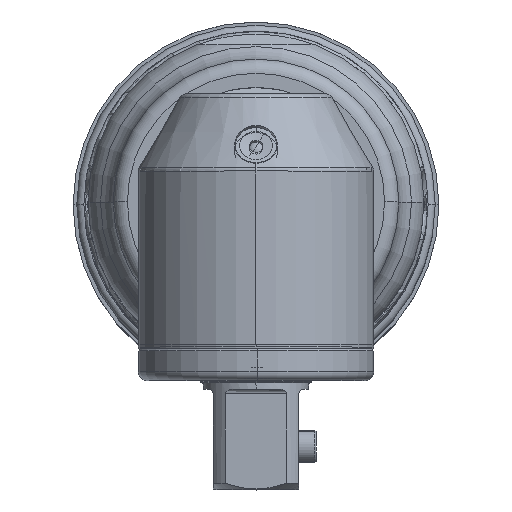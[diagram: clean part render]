
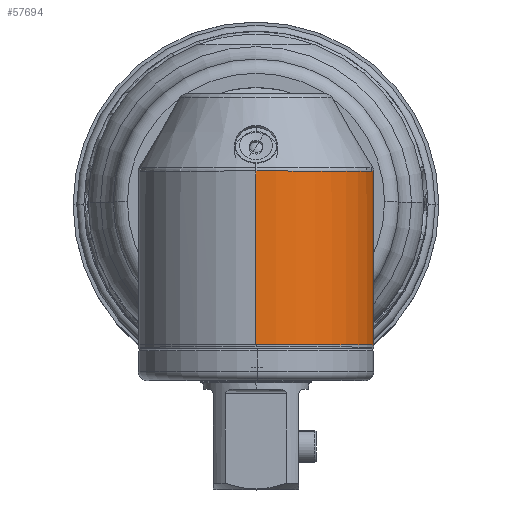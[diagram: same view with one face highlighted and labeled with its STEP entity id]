
A CAD part, top view. The second image highlights one B-rep face of the part: STEP entity #57694.
In plain terms, the highlighted cylindrical face has radius 13.081 mm (diameter 26.162 mm), a partial arc.
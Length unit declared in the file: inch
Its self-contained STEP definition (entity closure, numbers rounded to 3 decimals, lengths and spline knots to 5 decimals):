
#177 = CARTESIAN_POINT ( 'NONE',  ( 0., -0.6275, 5.83333 ) ) ;
#304 = CARTESIAN_POINT ( 'NONE',  ( 0., 0.13196, 6.34833 ) ) ;
#2229 = CARTESIAN_POINT ( 'NONE',  ( 0.15085, -0.5059, 5.34044 ) ) ;
#3226 = CARTESIAN_POINT ( 'NONE',  ( 0., 0.13196, 5.83333 ) ) ;
#3802 = CARTESIAN_POINT ( 'NONE',  ( 0.48121, -0.14799, 5.64932 ) ) ;
#3839 = EDGE_LOOP ( 'NONE', ( #35046, #51843, #43747, #19916, #20536 ) ) ;
#4142 = CARTESIAN_POINT ( 'NONE',  ( 0.47053, -0.18245, 5.6235 ) ) ;
#4307 = LINE ( 'NONE', #43387, #16334 ) ;
#4454 = CARTESIAN_POINT ( 'NONE',  ( 0.49145, -0.10251, 5.67925 ) ) ;
#4716 = AXIS2_PLACEMENT_3D ( 'NONE', #5178, #24511, #40400 ) ;
#5178 = CARTESIAN_POINT ( 'NONE',  ( 0., -0.6275, 5.83333 ) ) ;
#5346 = CARTESIAN_POINT ( 'NONE',  ( 0., -0.6275, 6.34833 ) ) ;
#6526 = DIRECTION ( 'NONE',  ( 0., 0., 1. ) ) ;
#7058 = CARTESIAN_POINT ( 'NONE',  ( 0.0444, -0.52842, 5.31978 ) ) ;
#8085 = EDGE_CURVE ( 'NONE', #52984, #50842, #21929, .T. ) ;
#8907 = CARTESIAN_POINT ( 'NONE',  ( 0.49702, 0.06594, 5.69835 ) ) ;
#9232 = CARTESIAN_POINT ( 'NONE',  ( 0.49606, -0.07359, 5.69485 ) ) ;
#10541 = DIRECTION ( 'NONE',  ( 0., 0., 1. ) ) ;
#12958 = EDGE_CURVE ( 'NONE', #52984, #52741, #4307, .T. ) ;
#13994 = CARTESIAN_POINT ( 'NONE',  ( 0.50044, 0.02359, 5.71172 ) ) ;
#16334 = VECTOR ( 'NONE', #19558, 39.37008 ) ;
#17533 = DIRECTION ( 'NONE',  ( 0., 1., 0. ) ) ;
#18451 = CARTESIAN_POINT ( 'NONE',  ( 0.49299, 0.09546, 5.68406 ) ) ;
#18762 = CARTESIAN_POINT ( 'NONE',  ( 0.48505, 0.13196, 5.66027 ) ) ;
#19075 = CARTESIAN_POINT ( 'NONE',  ( 0.32331, -0.40523, 5.43206 ) ) ;
#19243 = CARTESIAN_POINT ( 'NONE',  ( 0., -0.53, 5.31833 ) ) ;
#19558 = DIRECTION ( 'NONE',  ( 0., 1., 0. ) ) ;
#19916 = ORIENTED_EDGE ( 'NONE', *, *, #45025, .T. ) ;
#20536 = ORIENTED_EDGE ( 'NONE', *, *, #12958, .F. ) ;
#20841 = CARTESIAN_POINT ( 'NONE',  ( 0., -0.6275, 5.31833 ) ) ;
#21929 = CIRCLE ( 'NONE', #4716, 0.515 ) ;
#22868 = CARTESIAN_POINT ( 'NONE',  ( 0.46445, -0.19909, 5.61032 ) ) ;
#23189 = CARTESIAN_POINT ( 'NONE',  ( 0.35025, -0.37933, 5.45534 ) ) ;
#23802 = CARTESIAN_POINT ( 'NONE',  ( 0.48943, 0.11396, 5.67253 ) ) ;
#24303 = CYLINDRICAL_SURFACE ( 'NONE', #31014, 0.515 ) ;
#24511 = DIRECTION ( 'NONE',  ( 0., 1., 0. ) ) ;
#24608 = FACE_OUTER_BOUND ( 'NONE', #3839, .T. ) ;
#26389 = CARTESIAN_POINT ( 'NONE',  ( 0.08773, -0.52232, 5.32538 ) ) ;
#28287 = CARTESIAN_POINT ( 'NONE',  ( 0.27817, -0.44119, 5.39951 ) ) ;
#28597 = CARTESIAN_POINT ( 'NONE',  ( 0.50085, -0.00984, 5.71341 ) ) ;
#29443 = EDGE_CURVE ( 'NONE', #50842, #33838, #35979, .T. ) ;
#30864 = CARTESIAN_POINT ( 'NONE',  ( 0., -0.53, 5.31833 ) ) ;
#31014 = AXIS2_PLACEMENT_3D ( 'NONE', #177, #38910, #6526 ) ;
#32483 = CIRCLE ( 'NONE', #57856, 0.515 ) ;
#32687 = B_SPLINE_CURVE_WITH_KNOTS ( 'NONE', 3,
 ( #30864, #55307, #7058, #26389, #45811, #2229, #41008, #60413, #56888, #42263, #28287, #42898, #19075, #23189, #33066, #33387, #51819, #52765, #52454, #22868, #4142, #3802, #37181, #4454, #38440, #9232, #53077, #47677, #57859, #28597, #57530, #13994, #61991, #47998, #8907, #18451, #23802, #18762 ),
 .UNSPECIFIED., .F., .F.,
 ( 4, 2, 2, 2, 2, 2, 2, 2, 2, 2, 2, 2, 2, 2, 2, 2, 2, 2, 4 ),
 ( 0.02716, 0.02886, 0.03056, 0.03226, 0.03395, 0.03565, 0.03735, 0.03905, 0.04074, 0.04414, 0.04583, 0.04753, 0.04838, 0.04923, 0.05008, 0.05093, 0.05177, 0.05262, 0.05432 ),
 .UNSPECIFIED. ) ;
#33066 = CARTESIAN_POINT ( 'NONE',  ( 0.36282, -0.36583, 5.46743 ) ) ;
#33349 = VERTEX_POINT ( 'NONE', #57779 ) ;
#33387 = CARTESIAN_POINT ( 'NONE',  ( 0.38634, -0.33778, 5.49236 ) ) ;
#33838 = VERTEX_POINT ( 'NONE', #19243 ) ;
#35046 = ORIENTED_EDGE ( 'NONE', *, *, #8085, .T. ) ;
#35979 = LINE ( 'NONE', #45843, #46286 ) ;
#37181 = CARTESIAN_POINT ( 'NONE',  ( 0.4858, -0.13022, 5.66195 ) ) ;
#37856 = DIRECTION ( 'NONE',  ( 0., -1., 0. ) ) ;
#38440 = CARTESIAN_POINT ( 'NONE',  ( 0.49313, -0.09307, 5.68475 ) ) ;
#38910 = DIRECTION ( 'NONE',  ( 0., 1., 0. ) ) ;
#39712 = EDGE_CURVE ( 'NONE', #33838, #33349, #32687, .T. ) ;
#40400 = DIRECTION ( 'NONE',  ( 0., 0., 1. ) ) ;
#41008 = CARTESIAN_POINT ( 'NONE',  ( 0.17091, -0.49866, 5.34708 ) ) ;
#42263 = CARTESIAN_POINT ( 'NONE',  ( 0.26165, -0.45241, 5.38931 ) ) ;
#42898 = CARTESIAN_POINT ( 'NONE',  ( 0.30895, -0.41763, 5.42086 ) ) ;
#43387 = CARTESIAN_POINT ( 'NONE',  ( 0., -0.6275, 6.34833 ) ) ;
#43747 = ORIENTED_EDGE ( 'NONE', *, *, #39712, .T. ) ;
#45025 = EDGE_CURVE ( 'NONE', #33349, #52741, #32483, .T. ) ;
#45811 = CARTESIAN_POINT ( 'NONE',  ( 0.10912, -0.51777, 5.32956 ) ) ;
#45843 = CARTESIAN_POINT ( 'NONE',  ( 0., -0.6275, 5.31833 ) ) ;
#46286 = VECTOR ( 'NONE', #17533, 39.37008 ) ;
#47677 = CARTESIAN_POINT ( 'NONE',  ( 0.49931, -0.04254, 5.70711 ) ) ;
#47998 = CARTESIAN_POINT ( 'NONE',  ( 0.49814, 0.0558, 5.7026 ) ) ;
#50842 = VERTEX_POINT ( 'NONE', #20841 ) ;
#51819 = CARTESIAN_POINT ( 'NONE',  ( 0.3973, -0.3232, 5.50523 ) ) ;
#51843 = ORIENTED_EDGE ( 'NONE', *, *, #29443, .T. ) ;
#52454 = CARTESIAN_POINT ( 'NONE',  ( 0.44399, -0.2478, 5.57067 ) ) ;
#52741 = VERTEX_POINT ( 'NONE', #304 ) ;
#52765 = CARTESIAN_POINT ( 'NONE',  ( 0.42739, -0.27869, 5.54412 ) ) ;
#52984 = VERTEX_POINT ( 'NONE', #5346 ) ;
#53077 = CARTESIAN_POINT ( 'NONE',  ( 0.49732, -0.06351, 5.69947 ) ) ;
#55307 = CARTESIAN_POINT ( 'NONE',  ( 0.02239, -0.53, 5.31833 ) ) ;
#56888 = CARTESIAN_POINT ( 'NONE',  ( 0.22707, -0.47286, 5.37067 ) ) ;
#57530 = CARTESIAN_POINT ( 'NONE',  ( 0.50093, 0.00153, 5.71377 ) ) ;
#57694 = ADVANCED_FACE ( 'NONE', ( #24608 ), #24303, .T. ) ;
#57779 = CARTESIAN_POINT ( 'NONE',  ( 0.48505, 0.13196, 5.66027 ) ) ;
#57856 = AXIS2_PLACEMENT_3D ( 'NONE', #3226, #37856, #10541 ) ;
#57859 = CARTESIAN_POINT ( 'NONE',  ( 0.50003, -0.03184, 5.71004 ) ) ;
#60413 = CARTESIAN_POINT ( 'NONE',  ( 0.20896, -0.48216, 5.36218 ) ) ;
#61991 = CARTESIAN_POINT ( 'NONE',  ( 0.49986, 0.03452, 5.70934 ) ) ;
